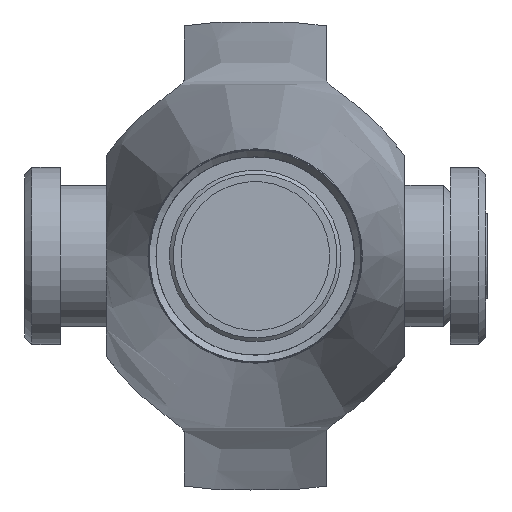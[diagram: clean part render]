
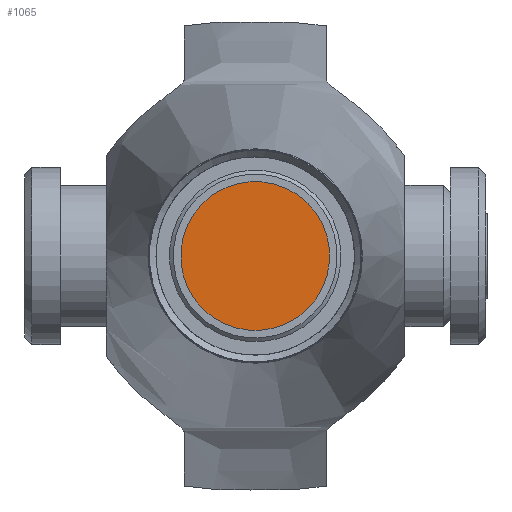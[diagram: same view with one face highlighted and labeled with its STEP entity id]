
A CAD part, left-side view. The second image highlights one B-rep face of the part: STEP entity #1065.
In plain terms, the highlighted planar face has unit normal (-1, 0, 0).
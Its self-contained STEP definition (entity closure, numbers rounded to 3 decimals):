
#77=PLANE('',#1163);
#109=FACE_OUTER_BOUND('',#173,.T.);
#173=EDGE_LOOP('',(#704,#705));
#361=CIRCLE('',#1161,10.5);
#362=CIRCLE('',#1162,10.5);
#431=VERTEX_POINT('',#1631);
#432=VERTEX_POINT('',#1633);
#540=EDGE_CURVE('',#432,#431,#361,.T.);
#541=EDGE_CURVE('',#431,#432,#362,.T.);
#704=ORIENTED_EDGE('',*,*,#540,.T.);
#705=ORIENTED_EDGE('',*,*,#541,.T.);
#1065=ADVANCED_FACE('',(#109),#77,.T.);
#1161=AXIS2_PLACEMENT_3D('',#1634,#1314,#1315);
#1162=AXIS2_PLACEMENT_3D('',#1635,#1316,#1317);
#1163=AXIS2_PLACEMENT_3D('',#1636,#1318,#1319);
#1314=DIRECTION('center_axis',(-1.,0.,0.));
#1315=DIRECTION('ref_axis',(0.,-0.817,-0.576));
#1316=DIRECTION('center_axis',(-1.,0.,0.));
#1317=DIRECTION('ref_axis',(0.,-0.817,-0.576));
#1318=DIRECTION('center_axis',(-1.,0.,0.));
#1319=DIRECTION('ref_axis',(0.,-0.817,-0.576));
#1631=CARTESIAN_POINT('',(-227.5,-6.05,8.581));
#1633=CARTESIAN_POINT('',(-227.5,6.05,-8.581));
#1634=CARTESIAN_POINT('Origin',(-227.5,0.,0.));
#1635=CARTESIAN_POINT('Origin',(-227.5,0.,0.));
#1636=CARTESIAN_POINT('Origin',(-227.5,0.,0.));
